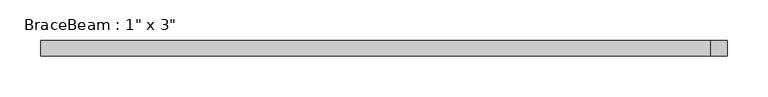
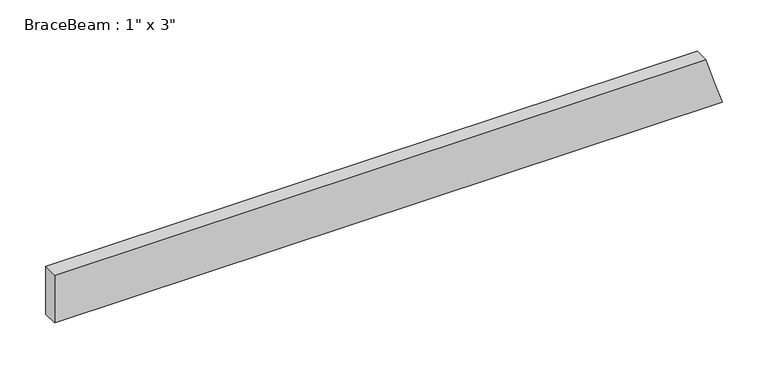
"""IFC4 building model written with IfcOpenShell, lengths in millimetres: beam geometry."""

from ifc_helpers import new_model, si_unit, origin, place, context, project, spatial, faceted_brep, source, transform, mapped, element, save


def beam_5691c770(model_context):
    return source(origin(), model_context, "Body", "Brep", [
        faceted_brep([(-416.4366687, -9.525, -31.75), (-416.4366687, 9.525, -31.75), (425.1511462, 9.525, -31.75), (425.1511462, -9.525, -31.75), (-416.4366687, 9.525, 31.75), (404.4254517, 9.525, 31.75), (414.788299, 9.525, 0.0), (-416.4366687, -9.525, 31.75), (404.4254517, -9.525, 31.75), (414.788299, -9.525, 0.0)], [[[0, 1, 2, 3]], [[1, 4, 5, 6, 2]], [[4, 7, 8, 5]], [[7, 0, 3, 9, 8]], [[7, 4, 1, 0]], [[5, 8, 9, 3, 2, 6]]]),
    ])


if __name__ == "__main__":
    model = new_model("IFC4")
    model_context = context("Model", 3, world=origin())
    ifc_project = project(units=[si_unit("LENGTHUNIT", "METRE", prefix="MILLI")], contexts=[model_context])
    site = spatial("IfcSite", under=ifc_project)
    building = spatial("IfcBuilding", under=site)
    placement = place(None, origin())
    beam_shape = beam_5691c770(model_context)
    element("IfcBeam", 1, ObjectType="BraceBeam : 1\" x 3\"", at=placement, inside=building, context=model_context, shape_type="MappedRepresentation", body=[
        mapped(beam_shape, transform((0.0, 0.0, 0.0), x_axis=(1.0, 0.0, 0.0), y_axis=(0.0, 1.0, 0.0), z_axis=(0.0, 0.0, 1.0))),
    ])
    save(model, "model.ifc")
